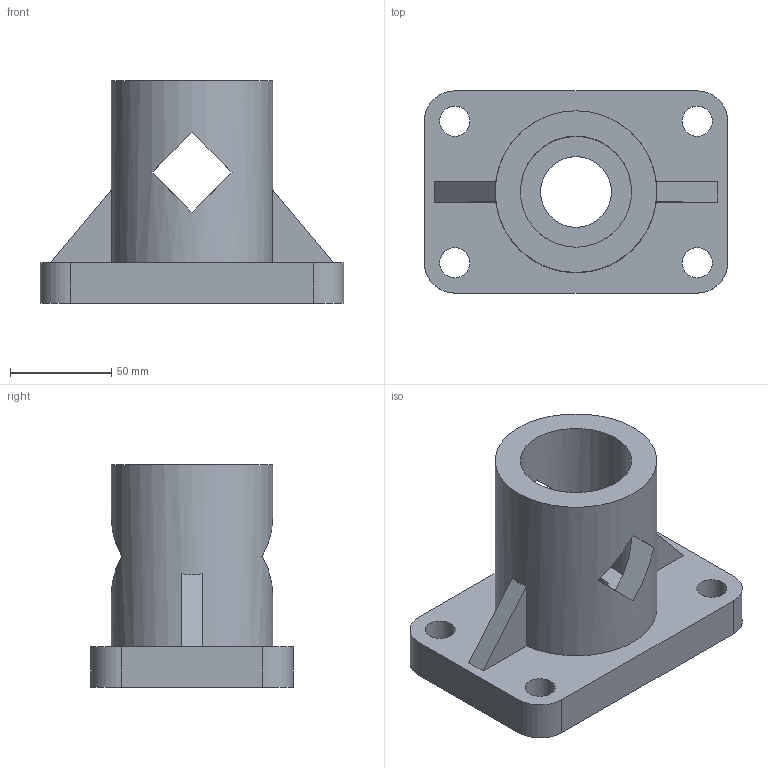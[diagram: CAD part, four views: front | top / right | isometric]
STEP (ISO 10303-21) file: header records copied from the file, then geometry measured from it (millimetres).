
FILE_DESCRIPTION(('TFLEX Exchange Step'),'2;1');
FILE_NAME('X2\041A043E0440043F04430441\X0\ вар 4.stp', '2025-06-24T11:12:42+03:00',('alymo'),('Unknown organisation'),'TFLEX Exchange 2023.0','T-FLEX CAD','Unknown authorisation');
FILE_SCHEMA( ('AUTOMOTIVE_DESIGN { 1 0 10303 214 1 1 1 1 }') );
Length unit declared in the file: millimetre
Products named in the file (1): Nodes
Bounding box: 150 x 100 x 110 mm (x, y, z)
Volume: 505998.3 mm3; surface area: 80828.2 mm2
Topology: 1 solids, 1 shells, 33 faces, 95 edges, 66 vertices
Faces by surface type: plane 22, cylinder 11
Full cylindrical faces by diameter (mm): 15 x4, 35 x1, 55 x1, 80 x1
Entity records: 1175 total; most frequent: DIRECTION 213, CARTESIAN_POINT 195, ORIENTED_EDGE 190, EDGE_CURVE 95, AXIS2_PLACEMENT_3D 84, VERTEX_POINT 66, EDGE_LOOP 49, FACE_BOUND 49
